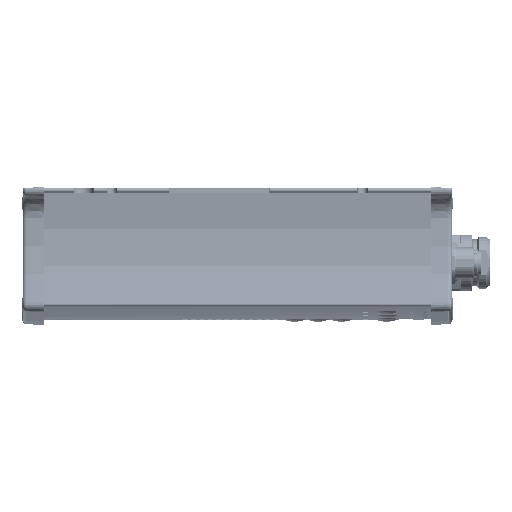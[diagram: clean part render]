
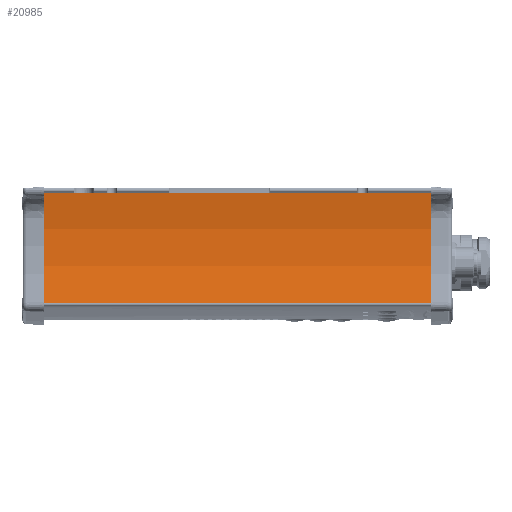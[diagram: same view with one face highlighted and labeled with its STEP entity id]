
A CAD part, left-side view. The second image highlights one B-rep face of the part: STEP entity #20985.
In plain terms, the highlighted cylindrical face has radius 109.9 mm (diameter 219.8 mm), a partial arc.
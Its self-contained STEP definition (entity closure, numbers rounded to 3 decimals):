
#20985 = ADVANCED_FACE ( 'NONE', ( #155760 ), #97533, .F. ) ;
#28170 = VECTOR ( 'NONE', #174696, 1000. ) ;
#36178 = EDGE_LOOP ( 'NONE', ( #89789, #134912, #126719, #73580 ) ) ;
#51329 = AXIS2_PLACEMENT_3D ( 'NONE', #68746, #161802, #239784 ) ;
#57614 = LINE ( 'NONE', #172932, #67432 ) ;
#67432 = VECTOR ( 'NONE', #229905, 1000. ) ;
#67619 = DIRECTION ( 'NONE',  ( 0., 1., 0. ) ) ;
#68746 = CARTESIAN_POINT ( 'NONE',  ( -187.95, -1., -20.3 ) ) ;
#70678 = VERTEX_POINT ( 'NONE', #216867 ) ;
#73580 = ORIENTED_EDGE ( 'NONE', *, *, #227008, .T. ) ;
#83617 = VERTEX_POINT ( 'NONE', #172966 ) ;
#84610 = EDGE_CURVE ( 'NONE', #70678, #157369, #141579, .T. ) ;
#89789 = ORIENTED_EDGE ( 'NONE', *, *, #113281, .T. ) ;
#90137 = AXIS2_PLACEMENT_3D ( 'NONE', #190680, #187003, #170897 ) ;
#97533 = CYLINDRICAL_SURFACE ( 'NONE', #182561, 109.9 ) ;
#99099 = LINE ( 'NONE', #120161, #28170 ) ;
#113121 = VERTEX_POINT ( 'NONE', #242640 ) ;
#113281 = EDGE_CURVE ( 'NONE', #83617, #113121, #126696, .T. ) ;
#120161 = CARTESIAN_POINT ( 'NONE',  ( -79.662, -175., -1.548 ) ) ;
#126696 = CIRCLE ( 'NONE', #51329, 109.9 ) ;
#126719 = ORIENTED_EDGE ( 'NONE', *, *, #84610, .F. ) ;
#134912 = ORIENTED_EDGE ( 'NONE', *, *, #173130, .F. ) ;
#141579 = CIRCLE ( 'NONE', #90137, 109.9 ) ;
#142002 = DIRECTION ( 'NONE',  ( 0., 0., -1. ) ) ;
#143255 = CARTESIAN_POINT ( 'NONE',  ( -187.95, -175., -20.3 ) ) ;
#155760 = FACE_OUTER_BOUND ( 'NONE', #36178, .T. ) ;
#157369 = VERTEX_POINT ( 'NONE', #221001 ) ;
#161802 = DIRECTION ( 'NONE',  ( 0., 1., 0. ) ) ;
#170897 = DIRECTION ( 'NONE',  ( 0., 0., 1. ) ) ;
#172932 = CARTESIAN_POINT ( 'NONE',  ( -81.929, -175., -49.24 ) ) ;
#172966 = CARTESIAN_POINT ( 'NONE',  ( -79.662, -1., -1.548 ) ) ;
#173130 = EDGE_CURVE ( 'NONE', #157369, #113121, #57614, .T. ) ;
#174696 = DIRECTION ( 'NONE',  ( 0., 1., 0. ) ) ;
#182561 = AXIS2_PLACEMENT_3D ( 'NONE', #143255, #67619, #142002 ) ;
#187003 = DIRECTION ( 'NONE',  ( 0., 1., 0. ) ) ;
#190680 = CARTESIAN_POINT ( 'NONE',  ( -187.95, -175., -20.3 ) ) ;
#216867 = CARTESIAN_POINT ( 'NONE',  ( -79.662, -175., -1.548 ) ) ;
#221001 = CARTESIAN_POINT ( 'NONE',  ( -81.929, -175., -49.24 ) ) ;
#227008 = EDGE_CURVE ( 'NONE', #70678, #83617, #99099, .T. ) ;
#229905 = DIRECTION ( 'NONE',  ( 0., 1., 0. ) ) ;
#239784 = DIRECTION ( 'NONE',  ( 0., 0., 1. ) ) ;
#242640 = CARTESIAN_POINT ( 'NONE',  ( -81.929, -1., -49.24 ) ) ;
